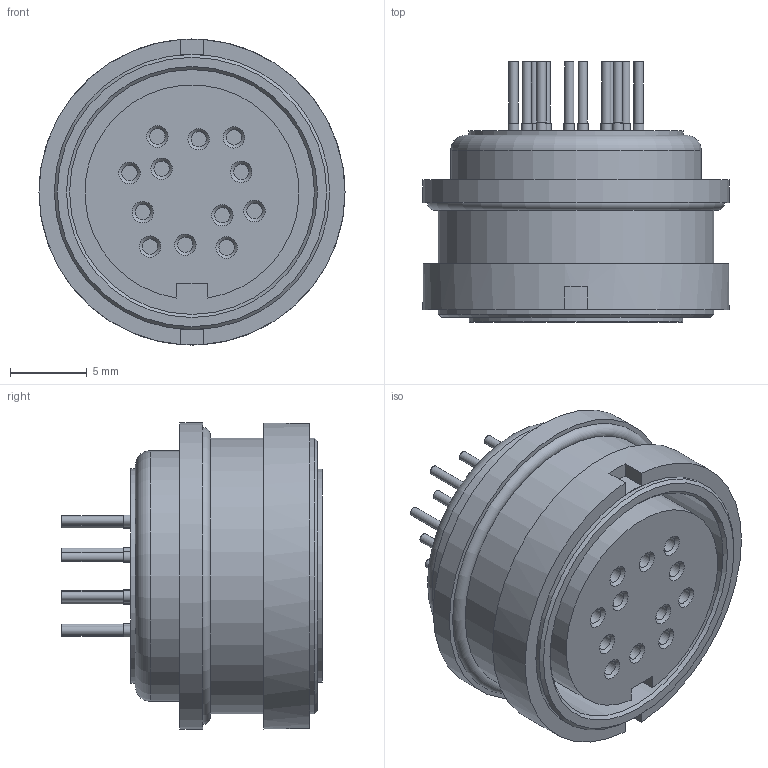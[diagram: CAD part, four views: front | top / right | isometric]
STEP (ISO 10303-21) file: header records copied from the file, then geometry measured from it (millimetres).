
FILE_DESCRIPTION((''),'2;1');
FILE_NAME('C:\TurckZip\BKFD_12-PCB.stp','2010-04-21T09:30:56',('IKOROL'),(''),'Autodesk Inventor 2009','Autodesk Inventor 2009','');
FILE_SCHEMA(('CONFIG_CONTROL_DESIGN'));
Length unit declared in the file: millimetre
Products named in the file (1): BKFD 12-PCB
Bounding box: 20 x 17 x 20 mm (x, y, z)
Volume: 2840.3 mm3; surface area: 2573.3 mm2
Topology: 1 solids, 1 shells, 116 faces, 199 edges, 128 vertices
Faces by surface type: plane 54, cylinder 46, cone 14, torus 2
Full cylindrical faces by diameter (mm): 0.6 x12, 0.7 x12, 1 x12, 14 x1, 16 x1, 16.4 x1, 18 x2, 20 x2
Entity records: 2576 total; most frequent: DIRECTION 482, CARTESIAN_POINT 379, ORIENTED_EDGE 274, AXIS2_PLACEMENT_3D 228, EDGE_LOOP 218, EDGE_CURVE 137, VERTEX_POINT 125, FACE_OUTER_BOUND 116
